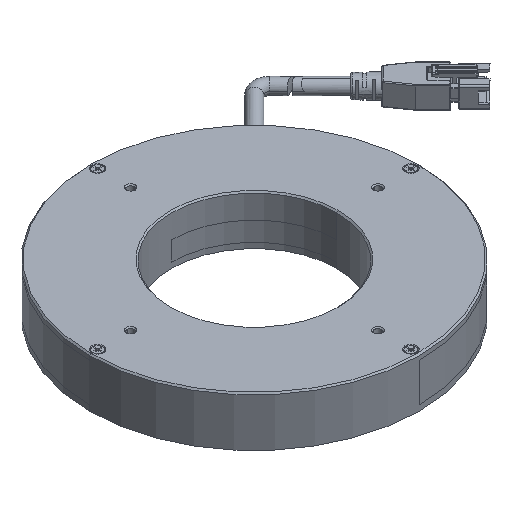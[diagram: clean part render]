
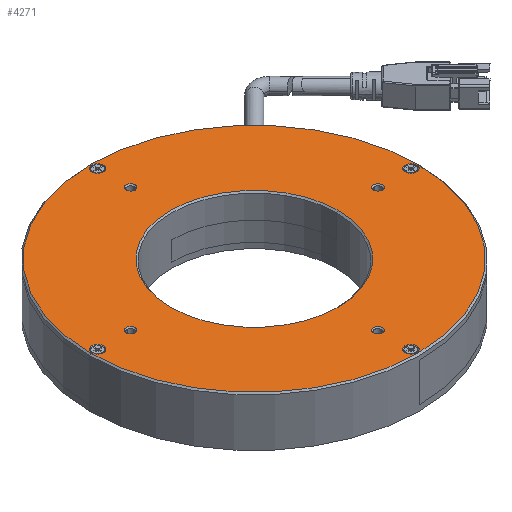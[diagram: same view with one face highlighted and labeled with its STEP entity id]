
A CAD part, isometric view. The second image highlights one B-rep face of the part: STEP entity #4271.
In plain terms, the highlighted planar face has unit normal (0, 0, 1).
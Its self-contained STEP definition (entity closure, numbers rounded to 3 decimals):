
#509=CARTESIAN_POINT('',(0.,-57.,2.));
#510=DIRECTION('',(0.,0.,-1.));
#511=DIRECTION('',(0.,1.,0.));
#512=AXIS2_PLACEMENT_3D('',#509,#510,#511);
#514=CARTESIAN_POINT('',(0.,-57.,2.));
#515=DIRECTION('',(0.,0.,-1.));
#516=DIRECTION('',(0.,-1.,0.));
#517=AXIS2_PLACEMENT_3D('',#514,#515,#516);
#519=CARTESIAN_POINT('',(0.,0.,2.));
#520=DIRECTION('',(0.,0.,-1.));
#521=DIRECTION('',(-1.,0.,0.));
#522=AXIS2_PLACEMENT_3D('',#519,#520,#521);
#524=CARTESIAN_POINT('',(0.,0.,2.));
#525=DIRECTION('',(0.,0.,-1.));
#526=DIRECTION('',(1.,0.,0.));
#527=AXIS2_PLACEMENT_3D('',#524,#525,#526);
#529=CARTESIAN_POINT('',(0.,45.,2.));
#530=DIRECTION('',(0.,0.,-1.));
#531=DIRECTION('',(-1.,0.,0.));
#532=AXIS2_PLACEMENT_3D('',#529,#530,#531);
#534=CARTESIAN_POINT('',(0.,45.,2.));
#535=DIRECTION('',(0.,0.,-1.));
#536=DIRECTION('',(1.,0.,0.));
#537=AXIS2_PLACEMENT_3D('',#534,#535,#536);
#539=CARTESIAN_POINT('',(-45.,0.,2.));
#540=DIRECTION('',(0.,0.,-1.));
#541=DIRECTION('',(0.,-1.,0.));
#542=AXIS2_PLACEMENT_3D('',#539,#540,#541);
#544=CARTESIAN_POINT('',(-45.,0.,2.));
#545=DIRECTION('',(0.,0.,-1.));
#546=DIRECTION('',(0.,1.,0.));
#547=AXIS2_PLACEMENT_3D('',#544,#545,#546);
#549=CARTESIAN_POINT('',(0.,-45.,2.));
#550=DIRECTION('',(0.,0.,-1.));
#551=DIRECTION('',(1.,0.,0.));
#552=AXIS2_PLACEMENT_3D('',#549,#550,#551);
#554=CARTESIAN_POINT('',(0.,-45.,2.));
#555=DIRECTION('',(0.,0.,-1.));
#556=DIRECTION('',(-1.,0.,0.));
#557=AXIS2_PLACEMENT_3D('',#554,#555,#556);
#559=CARTESIAN_POINT('',(45.,0.,2.));
#560=DIRECTION('',(0.,0.,-1.));
#561=DIRECTION('',(0.,1.,0.));
#562=AXIS2_PLACEMENT_3D('',#559,#560,#561);
#564=CARTESIAN_POINT('',(45.,0.,2.));
#565=DIRECTION('',(0.,0.,-1.));
#566=DIRECTION('',(0.,-1.,0.));
#567=AXIS2_PLACEMENT_3D('',#564,#565,#566);
#569=CARTESIAN_POINT('',(57.,0.,2.));
#570=DIRECTION('',(0.,0.,-1.));
#571=DIRECTION('',(-1.,0.,0.));
#572=AXIS2_PLACEMENT_3D('',#569,#570,#571);
#574=CARTESIAN_POINT('',(57.,0.,2.));
#575=DIRECTION('',(0.,0.,-1.));
#576=DIRECTION('',(1.,0.,0.));
#577=AXIS2_PLACEMENT_3D('',#574,#575,#576);
#579=CARTESIAN_POINT('',(0.,57.,2.));
#580=DIRECTION('',(0.,0.,-1.));
#581=DIRECTION('',(0.,-1.,0.));
#582=AXIS2_PLACEMENT_3D('',#579,#580,#581);
#584=CARTESIAN_POINT('',(0.,57.,2.));
#585=DIRECTION('',(0.,0.,-1.));
#586=DIRECTION('',(0.,1.,0.));
#587=AXIS2_PLACEMENT_3D('',#584,#585,#586);
#589=CARTESIAN_POINT('',(-57.,0.,2.));
#590=DIRECTION('',(0.,0.,-1.));
#591=DIRECTION('',(1.,0.,0.));
#592=AXIS2_PLACEMENT_3D('',#589,#590,#591);
#594=CARTESIAN_POINT('',(-57.,0.,2.));
#595=DIRECTION('',(0.,0.,-1.));
#596=DIRECTION('',(-1.,0.,0.));
#597=AXIS2_PLACEMENT_3D('',#594,#595,#596);
#599=CARTESIAN_POINT('',(0.,0.,2.));
#600=DIRECTION('',(0.,0.,1.));
#601=DIRECTION('',(-1.,0.,0.));
#602=AXIS2_PLACEMENT_3D('',#599,#600,#601);
#604=CARTESIAN_POINT('',(0.,0.,2.));
#605=DIRECTION('',(0.,0.,1.));
#606=DIRECTION('',(1.,0.,0.));
#607=AXIS2_PLACEMENT_3D('',#604,#605,#606);
#3001=CARTESIAN_POINT('',(59.5,0.,2.));
#3002=CARTESIAN_POINT('',(-59.5,0.,2.));
#3003=VERTEX_POINT('',#3001);
#3004=VERTEX_POINT('',#3002);
#3005=CARTESIAN_POINT('',(-59.15,0.,2.));
#3006=CARTESIAN_POINT('',(-54.85,0.,2.));
#3007=VERTEX_POINT('',#3005);
#3008=VERTEX_POINT('',#3006);
#3009=CARTESIAN_POINT('',(0.,59.15,2.));
#3010=CARTESIAN_POINT('',(0.,54.85,2.));
#3011=VERTEX_POINT('',#3009);
#3012=VERTEX_POINT('',#3010);
#3013=CARTESIAN_POINT('',(59.15,0.,2.));
#3014=CARTESIAN_POINT('',(54.85,0.,2.));
#3015=VERTEX_POINT('',#3013);
#3016=VERTEX_POINT('',#3014);
#3017=CARTESIAN_POINT('',(45.,-1.625,2.));
#3018=CARTESIAN_POINT('',(45.,1.625,2.));
#3019=VERTEX_POINT('',#3017);
#3020=VERTEX_POINT('',#3018);
#3021=CARTESIAN_POINT('',(-1.625,-45.,2.));
#3022=CARTESIAN_POINT('',(1.625,-45.,2.));
#3023=VERTEX_POINT('',#3021);
#3024=VERTEX_POINT('',#3022);
#3025=CARTESIAN_POINT('',(-45.,1.625,2.));
#3026=CARTESIAN_POINT('',(-45.,-1.625,2.));
#3027=VERTEX_POINT('',#3025);
#3028=VERTEX_POINT('',#3026);
#3029=CARTESIAN_POINT('',(1.625,45.,2.));
#3030=CARTESIAN_POINT('',(-1.625,45.,2.));
#3031=VERTEX_POINT('',#3029);
#3032=VERTEX_POINT('',#3030);
#3033=CARTESIAN_POINT('',(30.5,0.,2.));
#3034=CARTESIAN_POINT('',(-30.5,0.,2.));
#3035=VERTEX_POINT('',#3033);
#3036=VERTEX_POINT('',#3034);
#3037=CARTESIAN_POINT('',(0.,-59.15,2.));
#3038=CARTESIAN_POINT('',(0.,-54.85,2.));
#3039=VERTEX_POINT('',#3037);
#3040=VERTEX_POINT('',#3038);
#4208=CARTESIAN_POINT('',(0.,0.,2.));
#4209=DIRECTION('',(0.,0.,-1.));
#4210=DIRECTION('',(-1.,0.,0.));
#4211=AXIS2_PLACEMENT_3D('',#4208,#4209,#4210);
#4212=PLANE('',#4211);
#4214=ORIENTED_EDGE('',*,*,#4213,.F.);
#4216=ORIENTED_EDGE('',*,*,#4215,.F.);
#4217=EDGE_LOOP('',(#4214,#4216));
#4218=FACE_OUTER_BOUND('',#4217,.F.);
#4220=ORIENTED_EDGE('',*,*,#4219,.F.);
#4222=ORIENTED_EDGE('',*,*,#4221,.F.);
#4223=EDGE_LOOP('',(#4220,#4222));
#4224=FACE_BOUND('',#4223,.F.);
#4226=ORIENTED_EDGE('',*,*,#4225,.F.);
#4228=ORIENTED_EDGE('',*,*,#4227,.F.);
#4229=EDGE_LOOP('',(#4226,#4228));
#4230=FACE_BOUND('',#4229,.F.);
#4232=ORIENTED_EDGE('',*,*,#4231,.F.);
#4234=ORIENTED_EDGE('',*,*,#4233,.F.);
#4235=EDGE_LOOP('',(#4232,#4234));
#4236=FACE_BOUND('',#4235,.F.);
#4238=ORIENTED_EDGE('',*,*,#4237,.F.);
#4240=ORIENTED_EDGE('',*,*,#4239,.F.);
#4241=EDGE_LOOP('',(#4238,#4240));
#4242=FACE_BOUND('',#4241,.F.);
#4244=ORIENTED_EDGE('',*,*,#4243,.F.);
#4246=ORIENTED_EDGE('',*,*,#4245,.F.);
#4247=EDGE_LOOP('',(#4244,#4246));
#4248=FACE_BOUND('',#4247,.F.);
#4250=ORIENTED_EDGE('',*,*,#4249,.F.);
#4252=ORIENTED_EDGE('',*,*,#4251,.F.);
#4253=EDGE_LOOP('',(#4250,#4252));
#4254=FACE_BOUND('',#4253,.F.);
#4255=ORIENTED_EDGE('',*,*,#4157,.F.);
#4256=ORIENTED_EDGE('',*,*,#4182,.F.);
#4257=EDGE_LOOP('',(#4255,#4256));
#4258=FACE_BOUND('',#4257,.F.);
#4260=ORIENTED_EDGE('',*,*,#4259,.F.);
#4262=ORIENTED_EDGE('',*,*,#4261,.F.);
#4263=EDGE_LOOP('',(#4260,#4262));
#4264=FACE_BOUND('',#4263,.F.);
#4266=ORIENTED_EDGE('',*,*,#4265,.F.);
#4268=ORIENTED_EDGE('',*,*,#4267,.F.);
#4269=EDGE_LOOP('',(#4266,#4268));
#4270=FACE_BOUND('',#4269,.F.);
#4271=ADVANCED_FACE('',(#4218,#4224,#4230,#4236,#4242,#4248,#4254,#4258,#4264,
#4270),#4212,.F.);
#513=CIRCLE('',#512,2.15);
#518=CIRCLE('',#517,2.15);
#523=CIRCLE('',#522,30.5);
#528=CIRCLE('',#527,30.5);
#533=CIRCLE('',#532,1.625);
#538=CIRCLE('',#537,1.625);
#543=CIRCLE('',#542,1.625);
#548=CIRCLE('',#547,1.625);
#553=CIRCLE('',#552,1.625);
#558=CIRCLE('',#557,1.625);
#563=CIRCLE('',#562,1.625);
#568=CIRCLE('',#567,1.625);
#573=CIRCLE('',#572,2.15);
#578=CIRCLE('',#577,2.15);
#583=CIRCLE('',#582,2.15);
#588=CIRCLE('',#587,2.15);
#593=CIRCLE('',#592,2.15);
#598=CIRCLE('',#597,2.15);
#603=CIRCLE('',#602,59.5);
#608=CIRCLE('',#607,59.5);
#4157=EDGE_CURVE('',#3012,#3011,#583,.T.);
#4182=EDGE_CURVE('',#3011,#3012,#588,.T.);
#4213=EDGE_CURVE('',#3004,#3003,#603,.T.);
#4215=EDGE_CURVE('',#3003,#3004,#608,.T.);
#4219=EDGE_CURVE('',#3036,#3035,#523,.T.);
#4221=EDGE_CURVE('',#3035,#3036,#528,.T.);
#4225=EDGE_CURVE('',#3032,#3031,#533,.T.);
#4227=EDGE_CURVE('',#3031,#3032,#538,.T.);
#4231=EDGE_CURVE('',#3028,#3027,#543,.T.);
#4233=EDGE_CURVE('',#3027,#3028,#548,.T.);
#4237=EDGE_CURVE('',#3024,#3023,#553,.T.);
#4239=EDGE_CURVE('',#3023,#3024,#558,.T.);
#4243=EDGE_CURVE('',#3020,#3019,#563,.T.);
#4245=EDGE_CURVE('',#3019,#3020,#568,.T.);
#4249=EDGE_CURVE('',#3016,#3015,#573,.T.);
#4251=EDGE_CURVE('',#3015,#3016,#578,.T.);
#4259=EDGE_CURVE('',#3008,#3007,#593,.T.);
#4261=EDGE_CURVE('',#3007,#3008,#598,.T.);
#4265=EDGE_CURVE('',#3040,#3039,#513,.T.);
#4267=EDGE_CURVE('',#3039,#3040,#518,.T.);
